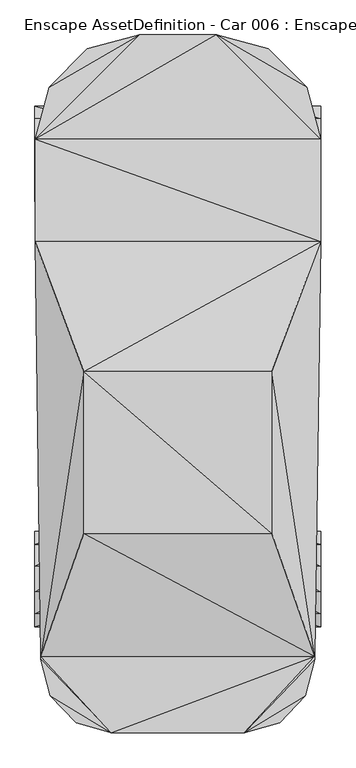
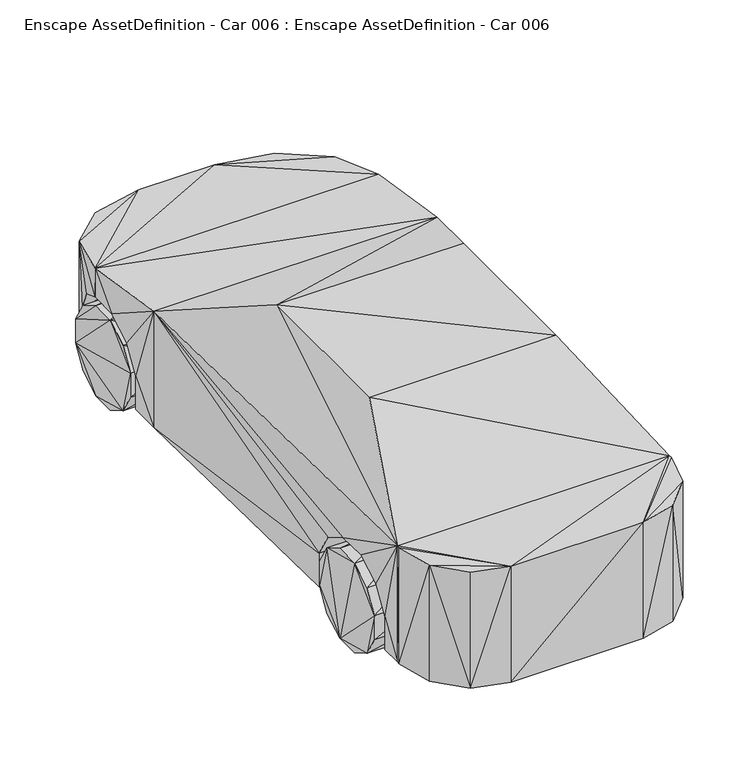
"""IFC4 building model written with IfcOpenShell, lengths in millimetres: geographic element geometry, Enscape AssetDefinition - Car 006 : Enscape AssetDefinition - Car 006."""

from ifc_helpers import new_model, si_unit, origin, place, context, project, spatial, faceted_brep, source, transform, mapped, element, save


def enscape_assetdefinition_car_006_enscape_assetdefinition_car_d59dc931(model_context):
    return source(origin(), model_context, "Body", "Brep", [
        faceted_brep([(919.5351005, -1197.8906393, 223.9695638), (919.5351005, -1729.8585176, 81.4293399), (919.5351005, -1422.7268696, -0.8664841), (919.5351005, -1812.1541739, 223.9696383), (623.0729818, -1812.1541739, 223.9696383), (919.5351005, -1587.318182, -0.8663841), (623.0729818, -1587.318182, -0.8663841), (919.5351005, -1812.1539354, 388.5609806), (623.0729818, -1729.8585176, 81.4293176), (623.0729818, -1812.1539354, 388.5609806), (919.5351005, -1729.8582792, 531.1012268), (623.0729818, -1729.8582792, 531.1012268), (919.5351005, -1587.3180628, 613.396883), (623.0729818, -1587.3180628, 613.396883), (623.0729818, -1422.7268696, -0.8664841), (623.0729818, -1280.1864147, 531.1012268), (919.5351005, -1280.1865339, 81.4290717), (623.0729818, -1280.1865339, 81.4290792), (623.0729818, -1197.8906393, 223.9695638), (919.5351005, -1197.8906393, 388.560921), (919.5351005, -1280.1864147, 531.1012268), (623.0729818, -1197.8906393, 388.560921), (919.5351005, -1422.7267504, 613.396883), (623.0729818, -1422.7267504, 613.396883)], [[[0, 1, 2]], [[3, 4, 1]], [[5, 1, 6]], [[1, 7, 3]], [[2, 1, 5]], [[0, 7, 1]], [[1, 4, 8]], [[6, 1, 8]], [[9, 8, 4]], [[3, 9, 4]], [[7, 9, 3]], [[10, 11, 7]], [[7, 12, 10]], [[0, 12, 7]], [[7, 11, 9]], [[13, 9, 11]], [[9, 14, 8]], [[14, 9, 13]], [[8, 14, 6]], [[14, 13, 15]], [[2, 14, 16]], [[15, 17, 14]], [[2, 6, 14]], [[16, 14, 17]], [[16, 17, 0]], [[0, 2, 16]], [[5, 6, 2]], [[0, 18, 19]], [[20, 0, 19]], [[12, 0, 20]], [[0, 17, 18]], [[15, 18, 17]], [[18, 15, 21]], [[19, 18, 21]], [[19, 21, 20]], [[20, 15, 22]], [[12, 20, 22]], [[20, 21, 15]], [[22, 23, 12]], [[12, 13, 10]], [[12, 23, 13]], [[22, 15, 23]], [[15, 13, 23]], [[10, 13, 11]]]),
        faceted_brep([(919.5351601, 1540.6147242, 223.9696085), (919.5351601, 1008.6470842, 81.4293772), (919.5351601, 1315.7786131, -0.8664241), (623.0730414, 1008.6470842, 81.4293548), (919.5351601, 1151.1873007, -0.8663542), (919.5351601, 926.3513088, 223.9696532), (623.0730414, 926.3513088, 223.9696383), (919.5351601, 926.351428, 388.5610104), (623.0730414, 1151.1873007, -0.8663741), (623.0730414, 1315.7786131, -0.8664441), (919.5351601, 1458.319068, 81.4291462), (623.0730414, 1540.6147242, 223.9695936), (623.0730414, 1458.319068, 81.4291313), (623.0730414, 926.351428, 388.5609806), (919.5351005, 1540.6147242, 388.5610998), (623.0729818, 1540.6147242, 388.5610402), (919.5351005, 1458.3193064, 531.101346), (919.5351005, 1151.1875391, 613.3970618), (919.5351005, 1315.7788515, 613.3970618), (919.5351005, 1008.6470842, 531.101346), (623.0729818, 1008.6470842, 531.101346), (623.0729818, 1315.7788515, 613.3970022), (623.0729818, 1151.1875391, 613.3970022), (623.0729818, 1458.3193064, 531.1012864)], [[[0, 1, 2]], [[1, 3, 4]], [[5, 6, 1]], [[1, 7, 5]], [[2, 1, 4]], [[0, 7, 1]], [[1, 6, 3]], [[4, 8, 2]], [[4, 3, 8]], [[3, 9, 8]], [[2, 8, 9]], [[2, 9, 10]], [[9, 11, 12]], [[3, 11, 9]], [[10, 9, 12]], [[10, 12, 0]], [[0, 2, 10]], [[0, 12, 11]], [[3, 13, 11]], [[0, 11, 14]], [[13, 15, 11]], [[14, 11, 15]], [[14, 15, 16]], [[17, 0, 14]], [[18, 14, 16]], [[18, 17, 14]], [[0, 17, 7]], [[7, 19, 13]], [[7, 13, 5]], [[7, 17, 19]], [[19, 17, 20]], [[13, 19, 20]], [[18, 21, 17]], [[17, 21, 22]], [[20, 17, 22]], [[16, 23, 18]], [[18, 23, 21]], [[16, 15, 23]], [[21, 23, 15]], [[15, 22, 21]], [[22, 13, 20]], [[22, 15, 13]], [[13, 3, 6]], [[5, 13, 6]]]),
        faceted_brep([(-919.5351005, -1422.7268696, -0.8664841), (-919.5351005, -1587.3180628, 613.396883), (-919.5351005, -1280.1864147, 531.1012268), (-919.5351005, -1422.7267504, 613.396883), (-623.0729818, -1422.7267504, 613.396883), (-919.5351005, -1729.8582792, 531.1012268), (-623.0729818, -1587.3180628, 613.396883), (-919.5351005, -1812.1539354, 388.5609806), (-623.0729818, -1280.1864147, 531.1012268), (-623.0729818, -1197.8906393, 223.9695638), (-623.0729818, -1197.8906393, 388.560921), (-623.0729818, -1422.7268696, -0.8664841), (-919.5351005, -1197.8906393, 223.9695638), (-919.5351005, -1197.8906393, 388.560921), (-623.0729818, -1280.1865339, 81.4290792), (-919.5351005, -1280.1865339, 81.4290717), (-623.0729818, -1587.318182, -0.8663841), (-919.5351005, -1587.318182, -0.8663841), (-919.5351005, -1729.8585176, 81.4293399), (-623.0729818, -1812.1539354, 388.5609806), (-623.0729818, -1729.8585176, 81.4293176), (-623.0729818, -1729.8582792, 531.1012268), (-919.5351005, -1812.1541739, 223.9696383), (-623.0729818, -1812.1541739, 223.9696383)], [[[0, 1, 2]], [[3, 1, 4]], [[1, 5, 6]], [[1, 7, 5]], [[2, 1, 3]], [[0, 7, 1]], [[4, 1, 6]], [[6, 8, 4]], [[8, 3, 4]], [[2, 3, 8]], [[8, 9, 10]], [[11, 9, 8]], [[11, 8, 6]], [[10, 2, 8]], [[12, 13, 9]], [[9, 11, 14]], [[9, 13, 10]], [[14, 12, 9]], [[13, 2, 10]], [[12, 2, 13]], [[15, 12, 14]], [[0, 12, 15]], [[0, 2, 12]], [[11, 15, 14]], [[0, 15, 11]], [[6, 16, 11]], [[16, 0, 11]], [[17, 0, 16]], [[18, 0, 17]], [[7, 0, 18]], [[16, 18, 17]], [[16, 6, 19]], [[20, 18, 16]], [[19, 20, 16]], [[19, 6, 21]], [[6, 5, 21]], [[7, 22, 19]], [[20, 19, 23]], [[21, 7, 19]], [[19, 22, 23]], [[5, 7, 21]], [[7, 18, 22]], [[22, 18, 23]], [[23, 18, 20]]]),
        faceted_brep([(-919.5351601, 1540.6147242, 223.9696085), (-919.5351601, 926.351428, 388.5610104), (-919.5351005, 1151.1875391, 613.3970618), (-919.5351601, 926.3513088, 223.9696532), (-623.0730414, 926.351428, 388.5609806), (-919.5351601, 1008.6470842, 81.4293772), (-919.5351005, 1008.6470842, 531.101346), (-623.0730414, 926.3513088, 223.9696383), (-623.0729818, 1008.6470842, 531.101346), (-623.0729818, 1151.1875391, 613.3970022), (-623.0730414, 1008.6470842, 81.4293548), (-623.0729818, 1315.7788515, 613.3970022), (-623.0729818, 1540.6147242, 388.5610402), (-919.5351005, 1540.6147242, 388.5610998), (-623.0729818, 1458.3193064, 531.1012864), (-623.0730414, 1540.6147242, 223.9695936), (-919.5351005, 1315.7788515, 613.3970618), (-919.5351005, 1458.3193064, 531.101346), (-623.0730414, 1315.7786131, -0.8664441), (-623.0730414, 1458.319068, 81.4291313), (-919.5351601, 1458.319068, 81.4291462), (-919.5351601, 1315.7786131, -0.8664241), (-623.0730414, 1151.1873007, -0.8663741), (-919.5351601, 1151.1873007, -0.8663542)], [[[0, 1, 2]], [[1, 3, 4]], [[1, 5, 3]], [[2, 1, 6]], [[5, 1, 0]], [[4, 6, 1]], [[3, 5, 7]], [[4, 3, 7]], [[8, 6, 4]], [[4, 9, 8]], [[10, 4, 7]], [[10, 9, 4]], [[8, 2, 6]], [[9, 2, 8]], [[11, 9, 12]], [[10, 12, 9]], [[11, 2, 9]], [[12, 13, 14]], [[10, 15, 12]], [[11, 12, 14]], [[15, 13, 12]], [[16, 2, 11]], [[14, 16, 11]], [[17, 16, 14]], [[14, 13, 17]], [[16, 17, 13]], [[13, 2, 16]], [[0, 13, 15]], [[2, 13, 0]], [[15, 10, 18]], [[15, 18, 19]], [[19, 0, 15]], [[20, 0, 19]], [[21, 0, 20]], [[5, 0, 21]], [[18, 20, 19]], [[21, 20, 18]], [[18, 10, 22]], [[22, 21, 18]], [[23, 21, 22]], [[5, 21, 23]], [[5, 23, 10]], [[7, 5, 10]], [[10, 23, 22]]]),
        faceted_brep([(579.2689323, -1143.9720392, 174.8623103), (579.2689323, -1866.0725355, 403.0084312), (579.2689919, -1866.0725355, 174.8623103), (883.1130266, -1866.0726547, 174.8623103), (579.2689323, -1143.9720392, 403.0083716), (579.2689323, -1240.7152653, 570.5724359), (579.2689323, -1408.2792997, 667.3154831), (579.2689323, -1601.7653942, 667.3154831), (579.2689323, -1769.3294287, 570.5724359), (883.1131458, -1866.0725355, 403.0084312), (881.2382221, -2001.7693043, 174.8623103), (884.4497204, -1769.3294287, 570.5724359), (881.2382221, -2001.7693043, 969.8676467), (886.7648244, -1601.7655134, 667.3154831), (889.4380927, -1408.2792997, 667.3154831), (918.1218147, 667.8000093, 969.8676467), (891.7531967, -1240.7152653, 570.5724359), (893.0897713, -1143.9720392, 403.0083716), (893.0897713, -1143.9720392, 174.8623103), (918.1218147, 667.8000093, 174.8623103), (579.2689919, 872.4327683, 174.8623103), (-579.2689323, -1143.9720392, 174.8623103), (918.1218147, 872.4327087, 174.8623103), (918.1218743, 872.4328876, 403.008461), (579.2689919, 872.4328876, 403.0084312), (918.1218147, 969.1759348, 570.5724955), (579.2689323, 1594.533205, 403.0084908), (579.2689323, 1136.7402077, 667.3156023), (579.2689323, 969.1759348, 570.5724955), (918.1218147, 1136.7402077, 667.3157215), (579.2689323, 1330.2263021, 667.3156023), (918.1218147, 1326.220274, 667.3157215), (918.1218147, 1326.2201548, 865.4494882), (917.0483351, 1330.2263021, 667.3157215), (872.1495867, 1497.7904558, 570.5724359), (579.2689323, 1497.7904558, 570.5724359), (828.0479312, 1662.3802185, 812.1382594), (-918.1218147, 1326.2201548, 865.4494882), (245.801419, 1998.5405207, 758.8269114), (846.2274671, 1594.5330858, 403.0084908), (828.0479908, 1662.3800993, 174.8623103), (581.9615722, 1908.4665775, 773.1116414), (846.2275267, 1594.533205, 174.8623103), (579.2689919, 1594.533205, 174.8623252), (581.9616318, 1908.4664583, 174.8623103), (245.801419, 1998.5405207, 174.8623103), (-579.2689919, 1594.533205, 174.8623103), (-579.2689919, 872.4327683, 174.8623103), (-245.801419, 1998.5405207, 174.8623103), (-245.801419, 1998.5405207, 758.8269114), (-581.9615722, 1908.4665775, 174.8623103), (-581.9616318, 1908.4664583, 773.1116414), (-828.0479908, 1662.3800993, 812.1382594), (-828.0479312, 1662.3802185, 174.8623103), (-917.0483351, 1330.2263021, 667.3157215), (-872.1496463, 1497.7904558, 570.5724955), (-846.2275267, 1594.533205, 403.0085206), (-846.2275267, 1594.533205, 174.8623103), (-579.2689323, 1497.7904558, 570.5724359), (-579.2689323, 1594.533205, 403.0084908), (-579.2689323, 1330.2263021, 667.3156023), (-918.1218147, 1326.220274, 667.3157215), (-579.2689323, 1136.7402077, 667.3156023), (-579.2689919, 872.4328876, 403.0084312), (-918.1218743, 872.4328876, 403.008461), (-918.1218147, 969.1759348, 570.5724955), (-918.1218147, 872.4327087, 174.8623103), (-579.2689323, 969.1759348, 570.5724955), (-918.1218147, 1136.7402077, 667.3157215), (-918.1218147, 667.8000093, 969.8676467), (-918.1218147, 667.8000093, 174.8623103), (-893.0897713, -1143.9720392, 403.0083716), (-893.0897713, -1143.9722776, 174.8623103), (-579.2689323, -1143.9720392, 403.0083716), (-891.7531967, -1240.7152653, 570.5724359), (-579.2689323, -1866.0725355, 403.0084312), (-579.2689919, -1866.0725355, 174.8623103), (-579.2689323, -1240.7152653, 570.5724359), (-889.4380927, -1408.2792997, 667.3154831), (-579.2689323, -1408.2792997, 667.3154831), (-886.7647648, -1601.7653942, 667.3154831), (-881.2382221, -2001.7693043, 969.8676467), (-604.4095159, -169.1815406, 1410.038352), (604.4095159, -169.1815406, 1410.038352), (604.4095159, -1210.2651596, 1410.038352), (-604.4095159, -1210.2651596, 1410.038352), (881.2382221, -2022.1791267, 174.8623103), (428.888768, -2493.4613705, 969.8676467), (881.2382221, -2022.1791267, 969.8676467), (-428.888768, -2493.4613705, 969.8676467), (820.6348419, -2257.8203678, 174.8623103), (820.6348419, -2257.8203678, 969.8676467), (655.0635099, -2430.321455, 969.8676467), (655.0634503, -2430.321455, 174.8623103), (428.888768, -2493.4613705, 174.8623103), (-428.888768, -2493.4613705, 174.8623103), (-655.0635099, -2430.321455, 174.8623103), (-820.6348419, -2257.8203678, 174.8623103), (-881.2382221, -2022.1791267, 174.8623103), (-881.2382221, -2001.7693043, 174.8623103), (-883.1130266, -1866.0730124, 174.8623103), (-820.6348419, -2257.8203678, 969.8676467), (-655.0634503, -2430.321455, 969.8676467), (-881.2382221, -2022.1791267, 969.8676467), (-883.1131458, -1866.0726547, 403.0084312), (-884.4496608, -1769.3293095, 570.5724359), (-579.2689323, -1769.3294287, 570.5724359), (-579.2689323, -1601.7653942, 667.3154831)], [[[0, 1, 2]], [[2, 1, 3]], [[1, 0, 4]], [[1, 4, 5]], [[6, 1, 5]], [[1, 6, 7]], [[1, 7, 8]], [[3, 1, 9]], [[8, 9, 1]], [[9, 10, 3]], [[10, 2, 3]], [[11, 9, 8]], [[9, 12, 10]], [[11, 12, 9]], [[7, 11, 8]], [[13, 11, 7]], [[6, 13, 7]], [[14, 13, 6]], [[5, 14, 6]], [[13, 12, 11]], [[14, 12, 13]], [[14, 15, 12]], [[16, 14, 5]], [[15, 14, 16]], [[17, 16, 4]], [[15, 16, 17]], [[4, 16, 5]], [[17, 4, 18]], [[18, 4, 0]], [[17, 18, 19]], [[17, 19, 15]], [[0, 19, 18]], [[20, 19, 0]], [[21, 20, 0]], [[21, 0, 2]], [[20, 22, 19]], [[23, 19, 22]], [[15, 19, 23]], [[20, 24, 22]], [[22, 24, 23]], [[23, 24, 25]], [[15, 23, 25]], [[24, 26, 27]], [[24, 27, 28]], [[26, 24, 20]], [[25, 24, 28]], [[15, 25, 29]], [[25, 28, 29]], [[29, 28, 27]], [[30, 27, 26]], [[27, 31, 29]], [[31, 27, 30]], [[29, 31, 32]], [[29, 32, 15]], [[31, 30, 33]], [[33, 32, 31]], [[33, 30, 34]], [[30, 26, 35]], [[34, 30, 35]], [[33, 36, 32]], [[34, 36, 33]], [[37, 15, 32]], [[38, 32, 36]], [[38, 37, 32]], [[36, 34, 39]], [[36, 40, 41]], [[38, 36, 41]], [[39, 40, 36]], [[34, 35, 39]], [[39, 35, 26]], [[42, 39, 43]], [[39, 42, 40]], [[43, 39, 26]], [[41, 40, 44]], [[43, 40, 42]], [[43, 44, 40]], [[41, 44, 38]], [[38, 44, 45]], [[43, 45, 44]], [[43, 46, 45]], [[20, 43, 26]], [[47, 43, 20]], [[43, 47, 46]], [[48, 49, 45]], [[45, 49, 38]], [[46, 48, 45]], [[50, 49, 48]], [[46, 50, 48]], [[51, 49, 50]], [[37, 38, 49]], [[52, 49, 51]], [[52, 37, 49]], [[53, 51, 50]], [[50, 46, 53]], [[52, 51, 53]], [[54, 52, 55]], [[56, 52, 53]], [[54, 37, 52]], [[55, 52, 56]], [[56, 53, 57]], [[53, 46, 57]], [[55, 56, 58]], [[58, 56, 59]], [[57, 59, 56]], [[54, 55, 60]], [[60, 55, 58]], [[54, 61, 37]], [[60, 61, 54]], [[60, 58, 59]], [[59, 62, 60]], [[61, 60, 62]], [[62, 59, 63]], [[46, 59, 57]], [[63, 59, 46]], [[63, 46, 47]], [[64, 65, 63]], [[64, 63, 66]], [[62, 63, 67]], [[63, 65, 67]], [[66, 63, 47]], [[61, 62, 68]], [[67, 68, 62]], [[68, 37, 61]], [[65, 68, 67]], [[68, 69, 37]], [[65, 69, 68]], [[64, 69, 65]], [[64, 66, 70]], [[64, 70, 69]], [[47, 70, 66]], [[71, 69, 70]], [[71, 70, 72]], [[70, 21, 72]], [[47, 21, 70]], [[71, 73, 74]], [[69, 71, 74]], [[72, 73, 71]], [[21, 73, 72]], [[75, 73, 21]], [[75, 21, 76]], [[21, 2, 76]], [[20, 21, 47]], [[75, 77, 73]], [[74, 73, 77]], [[74, 77, 78]], [[74, 78, 69]], [[75, 79, 77]], [[78, 77, 79]], [[80, 81, 78]], [[78, 79, 80]], [[78, 81, 69]], [[69, 81, 82]], [[69, 82, 15]], [[15, 37, 69]], [[83, 82, 84]], [[84, 82, 85]], [[82, 81, 85]], [[15, 82, 83]], [[83, 12, 15]], [[84, 12, 83]], [[84, 85, 12]], [[12, 85, 81]], [[10, 12, 86]], [[87, 88, 12]], [[89, 12, 81]], [[12, 89, 87]], [[86, 12, 88]], [[88, 90, 86]], [[86, 2, 10]], [[90, 2, 86]], [[91, 88, 87]], [[91, 90, 88]], [[91, 92, 90]], [[90, 92, 93]], [[2, 90, 93]], [[2, 93, 94]], [[2, 94, 95]], [[76, 2, 95]], [[92, 94, 93]], [[87, 94, 92]], [[91, 87, 92]], [[94, 87, 95]], [[95, 89, 96]], [[95, 87, 89]], [[76, 95, 96]], [[76, 96, 97]], [[76, 97, 98]], [[76, 99, 100]], [[76, 98, 99]], [[100, 75, 76]], [[97, 96, 101]], [[96, 89, 102]], [[101, 96, 102]], [[97, 101, 98]], [[98, 103, 99]], [[98, 101, 103]], [[89, 103, 101]], [[89, 101, 102]], [[89, 81, 103]], [[99, 103, 81]], [[104, 100, 99]], [[104, 99, 81]], [[104, 75, 100]], [[105, 106, 104]], [[81, 105, 104]], [[104, 106, 75]], [[81, 80, 105]], [[80, 107, 105]], [[105, 107, 106]], [[107, 75, 106]], [[75, 107, 79]], [[80, 79, 107]]]),
    ])


if __name__ == "__main__":
    model = new_model("IFC4")
    model_context = context("Model", 3, world=origin())
    ifc_project = project(units=[si_unit("LENGTHUNIT", "METRE", prefix="MILLI")], contexts=[model_context])
    site = spatial("IfcSite", under=ifc_project)
    building = spatial("IfcBuilding", under=site)
    placement = place(None, origin())
    enscape_assetdefinition_car_006_enscape_assetdefinition_car_shape = enscape_assetdefinition_car_006_enscape_assetdefinition_car_d59dc931(model_context)
    element("IfcGeographicElement", 1, ObjectType="Enscape AssetDefinition - Car 006 : Enscape AssetDefinition - Car 006", at=placement, inside=building, context=model_context, shape_type="MappedRepresentation", body=[
        mapped(enscape_assetdefinition_car_006_enscape_assetdefinition_car_shape, transform((0.0, 0.0, 0.0), x_axis=(1.0, 0.0, 0.0), y_axis=(0.0, 1.0, 0.0), z_axis=(0.0, 0.0, 1.0))),
    ])
    save(model, "model.ifc")
